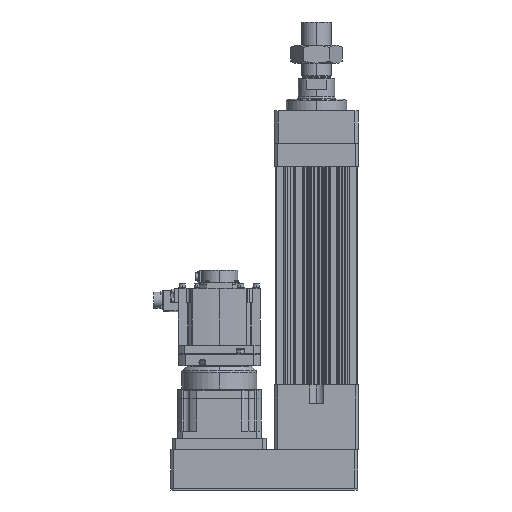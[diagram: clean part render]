
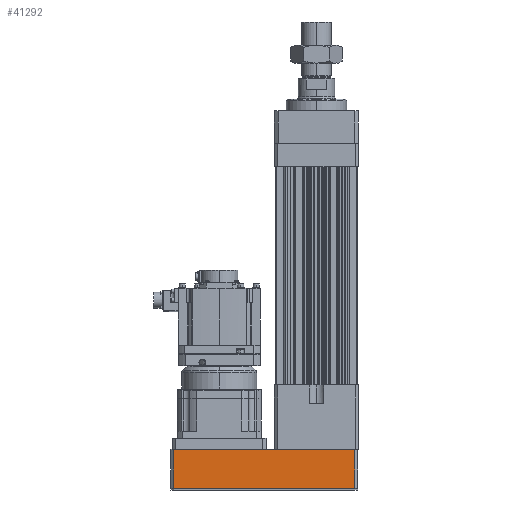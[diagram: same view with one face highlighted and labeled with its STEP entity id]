
A CAD part, left-side view. The second image highlights one B-rep face of the part: STEP entity #41292.
In plain terms, the highlighted planar face has unit normal (-1, 0, 0).
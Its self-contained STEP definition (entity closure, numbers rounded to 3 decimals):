
#885 = VECTOR ( 'NONE', #32259, 1000. ) ;
#1889 = PLANE ( 'NONE',  #45701 ) ;
#3186 = DIRECTION ( 'NONE',  ( 0., 0., 1. ) ) ;
#3483 = CARTESIAN_POINT ( 'NONE',  ( -88., -82., -222. ) ) ;
#3783 = EDGE_CURVE ( 'NONE', #33265, #19411, #4806, .T. ) ;
#4772 = CARTESIAN_POINT ( 'NONE',  ( -88., 306., -221.5 ) ) ;
#4806 = LINE ( 'NONE', #47060, #19456 ) ;
#5888 = CARTESIAN_POINT ( 'NONE',  ( -88., -82., -222. ) ) ;
#6482 = ORIENTED_EDGE ( 'NONE', *, *, #10139, .T. ) ;
#6937 = LINE ( 'NONE', #15754, #42582 ) ;
#10139 = EDGE_CURVE ( 'NONE', #30187, #33857, #30078, .T. ) ;
#11238 = LINE ( 'NONE', #31283, #51956 ) ;
#14929 = EDGE_CURVE ( 'NONE', #33857, #19411, #11238, .T. ) ;
#15754 = CARTESIAN_POINT ( 'NONE',  ( -88., -82., -221.5 ) ) ;
#16294 = DIRECTION ( 'NONE',  ( 0., -1., 0. ) ) ;
#17560 = ORIENTED_EDGE ( 'NONE', *, *, #14929, .T. ) ;
#18036 = EDGE_CURVE ( 'NONE', #33265, #30187, #6937, .T. ) ;
#18205 = DIRECTION ( 'NONE',  ( 1., 0., 0. ) ) ;
#19411 = VERTEX_POINT ( 'NONE', #40695 ) ;
#19456 = VECTOR ( 'NONE', #3186, 1000. ) ;
#26372 = DIRECTION ( 'NONE',  ( 0., 0., -1. ) ) ;
#29789 = EDGE_LOOP ( 'NONE', ( #32871, #41158, #6482, #17560 ) ) ;
#30078 = LINE ( 'NONE', #3483, #885 ) ;
#30187 = VERTEX_POINT ( 'NONE', #44940 ) ;
#31283 = CARTESIAN_POINT ( 'NONE',  ( -88., -82., -138.5 ) ) ;
#32259 = DIRECTION ( 'NONE',  ( 0., 0., 1. ) ) ;
#32871 = ORIENTED_EDGE ( 'NONE', *, *, #3783, .F. ) ;
#33109 = FACE_OUTER_BOUND ( 'NONE', #29789, .T. ) ;
#33265 = VERTEX_POINT ( 'NONE', #4772 ) ;
#33857 = VERTEX_POINT ( 'NONE', #48443 ) ;
#35379 = DIRECTION ( 'NONE',  ( 0., 1., 0. ) ) ;
#40695 = CARTESIAN_POINT ( 'NONE',  ( -88., 306., -138.5 ) ) ;
#41158 = ORIENTED_EDGE ( 'NONE', *, *, #18036, .T. ) ;
#41292 = ADVANCED_FACE ( 'NONE', ( #33109 ), #1889, .F. ) ;
#42582 = VECTOR ( 'NONE', #16294, 1000. ) ;
#44940 = CARTESIAN_POINT ( 'NONE',  ( -88., -82., -221.5 ) ) ;
#45701 = AXIS2_PLACEMENT_3D ( 'NONE', #5888, #18205, #26372 ) ;
#47060 = CARTESIAN_POINT ( 'NONE',  ( -88., 306., -222. ) ) ;
#48443 = CARTESIAN_POINT ( 'NONE',  ( -88., -82., -138.5 ) ) ;
#51956 = VECTOR ( 'NONE', #35379, 1000. ) ;
